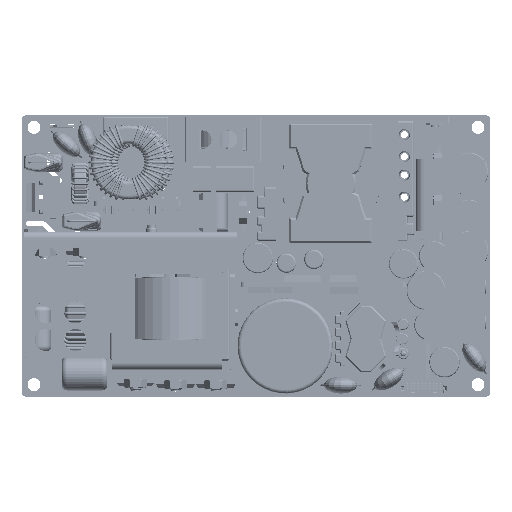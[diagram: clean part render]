
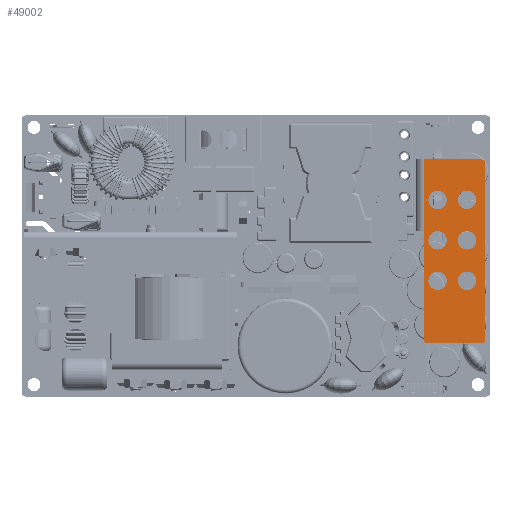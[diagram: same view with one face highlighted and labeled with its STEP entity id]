
A CAD part, top view. The second image highlights one B-rep face of the part: STEP entity #49002.
In plain terms, the highlighted planar face has unit normal (0, 0, 1) as drawn and (0, -1, 0) by its records, which use the part's own axes.
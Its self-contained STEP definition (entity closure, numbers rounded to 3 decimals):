
#45077=DIRECTION('',(-1.,0.,0.));
#45078=VECTOR('',#45077,19.55);
#45079=CARTESIAN_POINT('',(21.75,-20.3,-2.2));
#45080=LINE('',#45079,#45078);
#46193=CARTESIAN_POINT('',(10.75,-20.3,-14.));
#46194=DIRECTION('',(0.,-1.,0.));
#46195=DIRECTION('',(1.,0.,0.));
#46196=AXIS2_PLACEMENT_3D('',#46193,#46194,#46195);
#46201=CARTESIAN_POINT('',(10.75,-20.3,-14.));
#46202=DIRECTION('',(0.,-1.,0.));
#46203=DIRECTION('',(-1.,0.,0.));
#46204=AXIS2_PLACEMENT_3D('',#46201,#46202,#46203);
#46209=CARTESIAN_POINT('',(10.75,-20.3,-6.));
#46210=DIRECTION('',(0.,-1.,0.));
#46211=DIRECTION('',(1.,0.,0.));
#46212=AXIS2_PLACEMENT_3D('',#46209,#46210,#46211);
#46217=CARTESIAN_POINT('',(10.75,-20.3,-6.));
#46218=DIRECTION('',(0.,-1.,0.));
#46219=DIRECTION('',(-1.,0.,0.));
#46220=AXIS2_PLACEMENT_3D('',#46217,#46218,#46219);
#46225=CARTESIAN_POINT('',(-0.25,-20.3,-6.));
#46226=DIRECTION('',(0.,-1.,0.));
#46227=DIRECTION('',(1.,0.,0.));
#46228=AXIS2_PLACEMENT_3D('',#46225,#46226,#46227);
#46233=CARTESIAN_POINT('',(-0.25,-20.3,-6.));
#46234=DIRECTION('',(0.,-1.,0.));
#46235=DIRECTION('',(-1.,0.,0.));
#46236=AXIS2_PLACEMENT_3D('',#46233,#46234,#46235);
#46241=CARTESIAN_POINT('',(-11.25,-20.3,-6.));
#46242=DIRECTION('',(0.,-1.,0.));
#46243=DIRECTION('',(1.,0.,0.));
#46244=AXIS2_PLACEMENT_3D('',#46241,#46242,#46243);
#46249=CARTESIAN_POINT('',(-11.25,-20.3,-6.));
#46250=DIRECTION('',(0.,-1.,0.));
#46251=DIRECTION('',(-1.,0.,0.));
#46252=AXIS2_PLACEMENT_3D('',#46249,#46250,#46251);
#46257=CARTESIAN_POINT('',(-11.25,-20.3,-14.));
#46258=DIRECTION('',(0.,-1.,0.));
#46259=DIRECTION('',(1.,0.,0.));
#46260=AXIS2_PLACEMENT_3D('',#46257,#46258,#46259);
#46265=CARTESIAN_POINT('',(-11.25,-20.3,-14.));
#46266=DIRECTION('',(0.,-1.,0.));
#46267=DIRECTION('',(-1.,0.,0.));
#46268=AXIS2_PLACEMENT_3D('',#46265,#46266,#46267);
#46273=CARTESIAN_POINT('',(-0.25,-20.3,-14.));
#46274=DIRECTION('',(0.,-1.,0.));
#46275=DIRECTION('',(1.,0.,0.));
#46276=AXIS2_PLACEMENT_3D('',#46273,#46274,#46275);
#46281=CARTESIAN_POINT('',(-0.25,-20.3,-14.));
#46282=DIRECTION('',(0.,-1.,0.));
#46283=DIRECTION('',(-1.,0.,0.));
#46284=AXIS2_PLACEMENT_3D('',#46281,#46282,#46283);
#46289=CARTESIAN_POINT('',(-27.25,-20.3,-3.2));
#46290=DIRECTION('',(0.,-1.,0.));
#46291=DIRECTION('',(0.,0.,1.));
#46292=AXIS2_PLACEMENT_3D('',#46289,#46290,#46291);
#46297=DIRECTION('',(-1.,0.,0.));
#46298=VECTOR('',#46297,29.45);
#46299=CARTESIAN_POINT('',(2.2,-20.3,-2.2));
#46300=LINE('',#46299,#46298);
#46304=DIRECTION('',(0.,0.,-1.));
#46305=VECTOR('',#46304,15.8);
#46306=CARTESIAN_POINT('',(21.75,-20.3,-2.2));
#46307=LINE('',#46306,#46305);
#46311=CARTESIAN_POINT('',(20.75,-20.3,-18.));
#46312=DIRECTION('',(0.,-1.,0.));
#46313=DIRECTION('',(0.,0.,-1.));
#46314=AXIS2_PLACEMENT_3D('',#46311,#46312,#46313);
#46319=CARTESIAN_POINT('',(-27.25,-20.3,-18.));
#46320=DIRECTION('',(0.,-1.,0.));
#46321=DIRECTION('',(-1.,0.,0.));
#46322=AXIS2_PLACEMENT_3D('',#46319,#46320,#46321);
#46327=DIRECTION('',(0.,0.,-1.));
#46328=VECTOR('',#46327,14.8);
#46329=CARTESIAN_POINT('',(-28.25,-20.3,-3.2));
#46330=LINE('',#46329,#46328);
#46432=DIRECTION('',(1.,0.,0.));
#46433=VECTOR('',#46432,48.);
#46434=CARTESIAN_POINT('',(-27.25,-20.3,-19.));
#46435=LINE('',#46434,#46433);
#47005=CARTESIAN_POINT('',(21.75,-20.3,-2.2));
#47006=VERTEX_POINT('',#47005);
#47007=CARTESIAN_POINT('',(2.2,-20.3,-2.2));
#47008=VERTEX_POINT('',#47007);
#47013=CARTESIAN_POINT('',(13.25,-20.3,-14.));
#47014=CARTESIAN_POINT('',(8.25,-20.3,-14.));
#47015=VERTEX_POINT('',#47013);
#47016=VERTEX_POINT('',#47014);
#47017=CARTESIAN_POINT('',(13.25,-20.3,-6.));
#47018=CARTESIAN_POINT('',(8.25,-20.3,-6.));
#47019=VERTEX_POINT('',#47017);
#47020=VERTEX_POINT('',#47018);
#47021=CARTESIAN_POINT('',(2.25,-20.3,-6.));
#47022=CARTESIAN_POINT('',(-2.75,-20.3,-6.));
#47023=VERTEX_POINT('',#47021);
#47024=VERTEX_POINT('',#47022);
#47025=CARTESIAN_POINT('',(-8.75,-20.3,-6.));
#47026=CARTESIAN_POINT('',(-13.75,-20.3,-6.));
#47027=VERTEX_POINT('',#47025);
#47028=VERTEX_POINT('',#47026);
#47029=CARTESIAN_POINT('',(-8.75,-20.3,-14.));
#47030=CARTESIAN_POINT('',(-13.75,-20.3,-14.));
#47031=VERTEX_POINT('',#47029);
#47032=VERTEX_POINT('',#47030);
#47033=CARTESIAN_POINT('',(2.25,-20.3,-14.));
#47034=CARTESIAN_POINT('',(-2.75,-20.3,-14.));
#47035=VERTEX_POINT('',#47033);
#47036=VERTEX_POINT('',#47034);
#47125=CARTESIAN_POINT('',(-27.25,-20.3,-2.2));
#47126=CARTESIAN_POINT('',(-28.25,-20.3,-3.2));
#47127=VERTEX_POINT('',#47125);
#47128=VERTEX_POINT('',#47126);
#47133=CARTESIAN_POINT('',(-28.25,-20.3,-18.));
#47134=CARTESIAN_POINT('',(-27.25,-20.3,-19.));
#47135=VERTEX_POINT('',#47133);
#47136=VERTEX_POINT('',#47134);
#47141=CARTESIAN_POINT('',(20.75,-20.3,-19.));
#47142=CARTESIAN_POINT('',(21.75,-20.3,-18.));
#47143=VERTEX_POINT('',#47141);
#47144=VERTEX_POINT('',#47142);
#48945=CARTESIAN_POINT('',(2.2,-20.3,0.));
#48946=DIRECTION('',(0.,-1.,0.));
#48947=DIRECTION('',(-1.,0.,0.));
#48948=AXIS2_PLACEMENT_3D('',#48945,#48946,#48947);
#48949=PLANE('',#48948);
#48951=ORIENTED_EDGE('',*,*,#48950,.F.);
#48953=ORIENTED_EDGE('',*,*,#48952,.F.);
#48954=ORIENTED_EDGE('',*,*,#47522,.F.);
#48956=ORIENTED_EDGE('',*,*,#48955,.T.);
#48958=ORIENTED_EDGE('',*,*,#48957,.F.);
#48960=ORIENTED_EDGE('',*,*,#48959,.F.);
#48962=ORIENTED_EDGE('',*,*,#48961,.F.);
#48964=ORIENTED_EDGE('',*,*,#48963,.F.);
#48965=EDGE_LOOP('',(#48951,#48953,#48954,#48956,#48958,#48960,#48962,#48964));
#48966=FACE_OUTER_BOUND('',#48965,.F.);
#48968=ORIENTED_EDGE('',*,*,#48967,.T.);
#48970=ORIENTED_EDGE('',*,*,#48969,.T.);
#48971=EDGE_LOOP('',(#48968,#48970));
#48972=FACE_BOUND('',#48971,.F.);
#48974=ORIENTED_EDGE('',*,*,#48973,.T.);
#48976=ORIENTED_EDGE('',*,*,#48975,.T.);
#48977=EDGE_LOOP('',(#48974,#48976));
#48978=FACE_BOUND('',#48977,.F.);
#48980=ORIENTED_EDGE('',*,*,#48979,.T.);
#48982=ORIENTED_EDGE('',*,*,#48981,.T.);
#48983=EDGE_LOOP('',(#48980,#48982));
#48984=FACE_BOUND('',#48983,.F.);
#48986=ORIENTED_EDGE('',*,*,#48985,.T.);
#48988=ORIENTED_EDGE('',*,*,#48987,.T.);
#48989=EDGE_LOOP('',(#48986,#48988));
#48990=FACE_BOUND('',#48989,.F.);
#48991=ORIENTED_EDGE('',*,*,#48935,.T.);
#48993=ORIENTED_EDGE('',*,*,#48992,.T.);
#48994=EDGE_LOOP('',(#48991,#48993));
#48995=FACE_BOUND('',#48994,.F.);
#48997=ORIENTED_EDGE('',*,*,#48996,.T.);
#48999=ORIENTED_EDGE('',*,*,#48998,.T.);
#49000=EDGE_LOOP('',(#48997,#48999));
#49001=FACE_BOUND('',#49000,.F.);
#49002=ADVANCED_FACE('',(#48966,#48972,#48978,#48984,#48990,#48995,#49001),
#48949,.T.);
#46197=CIRCLE('',#46196,2.5);
#46205=CIRCLE('',#46204,2.5);
#46213=CIRCLE('',#46212,2.5);
#46221=CIRCLE('',#46220,2.5);
#46229=CIRCLE('',#46228,2.5);
#46237=CIRCLE('',#46236,2.5);
#46245=CIRCLE('',#46244,2.5);
#46253=CIRCLE('',#46252,2.5);
#46261=CIRCLE('',#46260,2.5);
#46269=CIRCLE('',#46268,2.5);
#46277=CIRCLE('',#46276,2.5);
#46285=CIRCLE('',#46284,2.5);
#46293=CIRCLE('',#46292,1.);
#46315=CIRCLE('',#46314,1.);
#46323=CIRCLE('',#46322,1.);
#47522=EDGE_CURVE('',#47006,#47008,#45080,.T.);
#48935=EDGE_CURVE('',#47035,#47036,#46277,.T.);
#48950=EDGE_CURVE('',#47127,#47128,#46293,.T.);
#48952=EDGE_CURVE('',#47008,#47127,#46300,.T.);
#48955=EDGE_CURVE('',#47006,#47144,#46307,.T.);
#48957=EDGE_CURVE('',#47143,#47144,#46315,.T.);
#48959=EDGE_CURVE('',#47136,#47143,#46435,.T.);
#48961=EDGE_CURVE('',#47135,#47136,#46323,.T.);
#48963=EDGE_CURVE('',#47128,#47135,#46330,.T.);
#48967=EDGE_CURVE('',#47019,#47020,#46213,.T.);
#48969=EDGE_CURVE('',#47020,#47019,#46221,.T.);
#48973=EDGE_CURVE('',#47023,#47024,#46229,.T.);
#48975=EDGE_CURVE('',#47024,#47023,#46237,.T.);
#48979=EDGE_CURVE('',#47027,#47028,#46245,.T.);
#48981=EDGE_CURVE('',#47028,#47027,#46253,.T.);
#48985=EDGE_CURVE('',#47031,#47032,#46261,.T.);
#48987=EDGE_CURVE('',#47032,#47031,#46269,.T.);
#48992=EDGE_CURVE('',#47036,#47035,#46285,.T.);
#48996=EDGE_CURVE('',#47015,#47016,#46197,.T.);
#48998=EDGE_CURVE('',#47016,#47015,#46205,.T.);
